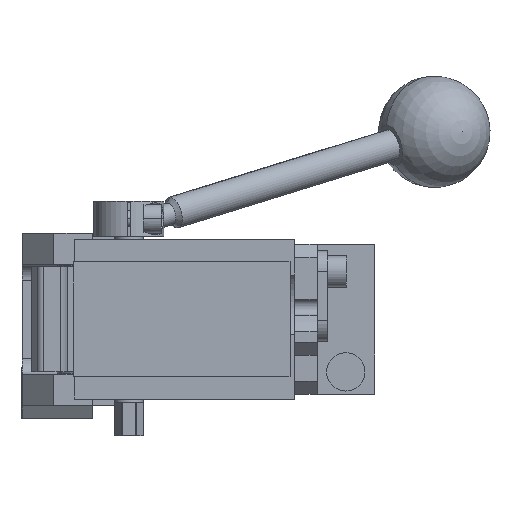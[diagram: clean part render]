
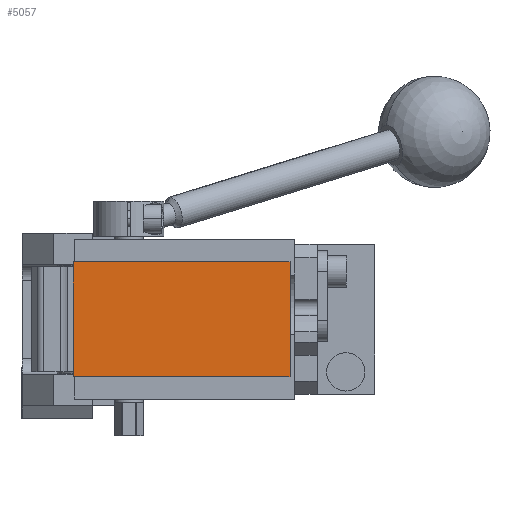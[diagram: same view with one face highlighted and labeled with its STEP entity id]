
A CAD part, front view. The second image highlights one B-rep face of the part: STEP entity #5057.
In plain terms, the highlighted planar face has unit normal (0, -1, 0).
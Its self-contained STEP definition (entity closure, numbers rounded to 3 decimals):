
#19 = CARTESIAN_POINT ( 'NONE',  ( 62., -233., 18. ) ) ;
#1087 = DIRECTION ( 'NONE',  ( 0., 0., -1. ) ) ;
#1157 = CARTESIAN_POINT ( 'NONE',  ( -6., -233., 18. ) ) ;
#1528 = EDGE_CURVE ( 'NONE', #2849, #12666, #15660, .T. ) ;
#2849 = VERTEX_POINT ( 'NONE', #5652 ) ;
#3182 = EDGE_CURVE ( 'NONE', #6774, #2849, #8582, .T. ) ;
#4674 = DIRECTION ( 'NONE',  ( 0., -1., 0. ) ) ;
#5057 = ADVANCED_FACE ( 'NONE', ( #14456 ), #15647, .T. ) ;
#5128 = ORIENTED_EDGE ( 'NONE', *, *, #6357, .T. ) ;
#5251 = VECTOR ( 'NONE', #14273, 1000. ) ;
#5652 = CARTESIAN_POINT ( 'NONE',  ( 62., -233., -18. ) ) ;
#6034 = VECTOR ( 'NONE', #1087, 1000. ) ;
#6095 = CARTESIAN_POINT ( 'NONE',  ( -6., -233., -18. ) ) ;
#6357 = EDGE_CURVE ( 'NONE', #6969, #6774, #14274, .T. ) ;
#6671 = EDGE_LOOP ( 'NONE', ( #5128, #13540, #13075, #13826 ) ) ;
#6774 = VERTEX_POINT ( 'NONE', #9432 ) ;
#6969 = VERTEX_POINT ( 'NONE', #7286 ) ;
#7286 = CARTESIAN_POINT ( 'NONE',  ( -6., -233., 18. ) ) ;
#8582 = LINE ( 'NONE', #6095, #5251 ) ;
#8613 = DIRECTION ( 'NONE',  ( 0., 0., 1. ) ) ;
#9083 = CARTESIAN_POINT ( 'NONE',  ( 62., -233., 18. ) ) ;
#9432 = CARTESIAN_POINT ( 'NONE',  ( -6., -233., -18. ) ) ;
#9508 = DIRECTION ( 'NONE',  ( -1., 0., 0. ) ) ;
#9597 = LINE ( 'NONE', #1157, #14338 ) ;
#11976 = CARTESIAN_POINT ( 'NONE',  ( -6., -233., 18. ) ) ;
#12666 = VERTEX_POINT ( 'NONE', #9083 ) ;
#12710 = AXIS2_PLACEMENT_3D ( 'NONE', #15567, #4674, #14378 ) ;
#13075 = ORIENTED_EDGE ( 'NONE', *, *, #1528, .T. ) ;
#13232 = VECTOR ( 'NONE', #8613, 1000. ) ;
#13540 = ORIENTED_EDGE ( 'NONE', *, *, #3182, .T. ) ;
#13826 = ORIENTED_EDGE ( 'NONE', *, *, #14448, .T. ) ;
#14273 = DIRECTION ( 'NONE',  ( 1., 0., 0. ) ) ;
#14274 = LINE ( 'NONE', #11976, #6034 ) ;
#14338 = VECTOR ( 'NONE', #9508, 1000. ) ;
#14378 = DIRECTION ( 'NONE',  ( 0., 0., -1. ) ) ;
#14448 = EDGE_CURVE ( 'NONE', #12666, #6969, #9597, .T. ) ;
#14456 = FACE_OUTER_BOUND ( 'NONE', #6671, .T. ) ;
#15567 = CARTESIAN_POINT ( 'NONE',  ( 0., -233., 0. ) ) ;
#15647 = PLANE ( 'NONE',  #12710 ) ;
#15660 = LINE ( 'NONE', #19, #13232 ) ;
